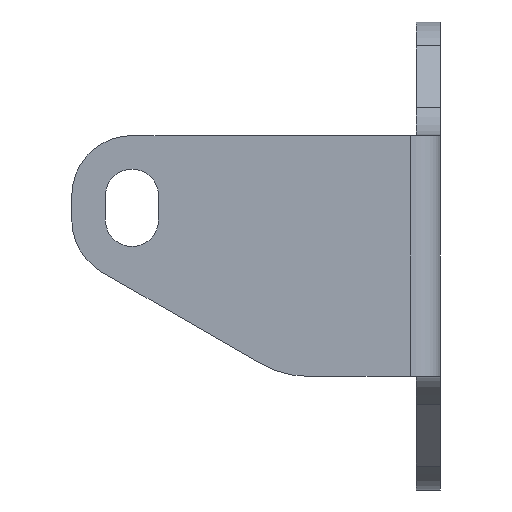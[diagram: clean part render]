
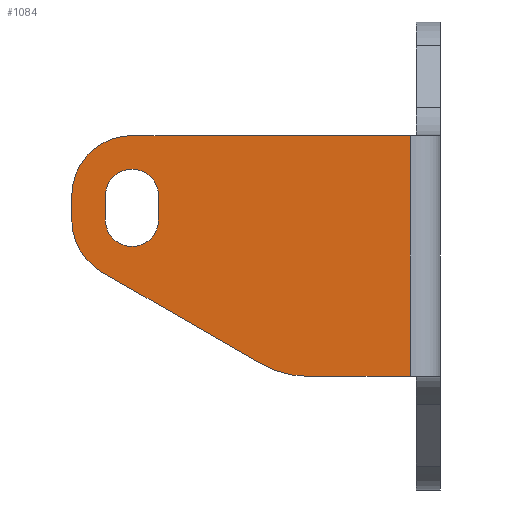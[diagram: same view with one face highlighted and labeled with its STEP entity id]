
A CAD part, front view. The second image highlights one B-rep face of the part: STEP entity #1084.
In plain terms, the highlighted planar face has unit normal (0, -1, 0).
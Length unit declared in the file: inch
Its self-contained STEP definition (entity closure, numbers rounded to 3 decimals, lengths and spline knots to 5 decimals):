
#25 = VECTOR ( 'NONE', #606, 39.37008 ) ;
#48 = EDGE_CURVE ( 'NONE', #1152, #475, #504, .T. ) ;
#69 = LINE ( 'NONE', #352, #1058 ) ;
#87 = EDGE_CURVE ( 'NONE', #1293, #253, #721, .T. ) ;
#99 = CARTESIAN_POINT ( 'NONE',  ( -1.7378, -1.875, -0.602 ) ) ;
#100 = ORIENTED_EDGE ( 'NONE', *, *, #48, .F. ) ;
#108 = AXIS2_PLACEMENT_3D ( 'NONE', #1216, #1102, #794 ) ;
#146 = DIRECTION ( 'NONE',  ( -1., 0., 0. ) ) ;
#149 = DIRECTION ( 'NONE',  ( 0., 1., 0. ) ) ;
#151 = VERTEX_POINT ( 'NONE', #1221 ) ;
#158 = CARTESIAN_POINT ( 'NONE',  ( -1.6, -1.875, -0.477 ) ) ;
#161 = CARTESIAN_POINT ( 'NONE',  ( -1.4622, -1.875, -0.602 ) ) ;
#168 = CARTESIAN_POINT ( 'NONE',  ( -0.68373, -1.875, -0.9145 ) ) ;
#171 = VECTOR ( 'NONE', #442, 39.37008 ) ;
#173 = AXIS2_PLACEMENT_3D ( 'NONE', #1049, #661, #1270 ) ;
#180 = CARTESIAN_POINT ( 'NONE',  ( -0.155, -1.875, -1.4145 ) ) ;
#182 = ORIENTED_EDGE ( 'NONE', *, *, #910, .F. ) ;
#185 = DIRECTION ( 'NONE',  ( 0., 0., -1. ) ) ;
#243 = EDGE_CURVE ( 'NONE', #495, #1152, #930, .T. ) ;
#248 = EDGE_CURVE ( 'NONE', #253, #407, #449, .T. ) ;
#253 = VERTEX_POINT ( 'NONE', #871 ) ;
#254 = VECTOR ( 'NONE', #889, 39.37008 ) ;
#278 = AXIS2_PLACEMENT_3D ( 'NONE', #523, #341, #1135 ) ;
#291 = ORIENTED_EDGE ( 'NONE', *, *, #243, .F. ) ;
#307 = VERTEX_POINT ( 'NONE', #664 ) ;
#341 = DIRECTION ( 'NONE',  ( 0., 1., 0. ) ) ;
#350 = LINE ( 'NONE', #748, #741 ) ;
#352 = CARTESIAN_POINT ( 'NONE',  ( -1.7378, -1.875, -0.602 ) ) ;
#364 = CARTESIAN_POINT ( 'NONE',  ( -0.93373, -1.875, -1.34751 ) ) ;
#372 = DIRECTION ( 'NONE',  ( 0., 0., 1. ) ) ;
#376 = EDGE_CURVE ( 'NONE', #459, #1293, #69, .T. ) ;
#407 = VERTEX_POINT ( 'NONE', #1259 ) ;
#413 = CARTESIAN_POINT ( 'NONE',  ( -1.7378, -1.875, -0.477 ) ) ;
#424 = CIRCLE ( 'NONE', #803, 0.1378 ) ;
#442 = DIRECTION ( 'NONE',  ( 0., 0., -1. ) ) ;
#448 = ORIENTED_EDGE ( 'NONE', *, *, #1166, .T. ) ;
#449 = CIRCLE ( 'NONE', #1189, 0.1378 ) ;
#459 = VERTEX_POINT ( 'NONE', #99 ) ;
#475 = VERTEX_POINT ( 'NONE', #798 ) ;
#491 = CARTESIAN_POINT ( 'NONE',  ( -1.9125, -1.875, -0.477 ) ) ;
#495 = VERTEX_POINT ( 'NONE', #598 ) ;
#504 = LINE ( 'NONE', #1302, #25 ) ;
#523 = CARTESIAN_POINT ( 'NONE',  ( -1.6, -1.875, -0.477 ) ) ;
#531 = AXIS2_PLACEMENT_3D ( 'NONE', #168, #1181, #847 ) ;
#535 = ORIENTED_EDGE ( 'NONE', *, *, #860, .F. ) ;
#543 = CARTESIAN_POINT ( 'NONE',  ( -1.6, -1.875, -0.1645 ) ) ;
#548 = EDGE_LOOP ( 'NONE', ( #1095, #1294, #574, #448, #1047 ) ) ;
#552 = VECTOR ( 'NONE', #809, 39.37008 ) ;
#557 = LINE ( 'NONE', #161, #171 ) ;
#559 = DIRECTION ( 'NONE',  ( 0., 0., -1. ) ) ;
#568 = VERTEX_POINT ( 'NONE', #826 ) ;
#569 = CARTESIAN_POINT ( 'NONE',  ( -0.155, -1.875, -1.4145 ) ) ;
#574 = ORIENTED_EDGE ( 'NONE', *, *, #248, .T. ) ;
#590 = DIRECTION ( 'NONE',  ( 0., 1., 0. ) ) ;
#598 = CARTESIAN_POINT ( 'NONE',  ( -0.68373, -1.875, -1.4145 ) ) ;
#606 = DIRECTION ( 'NONE',  ( -0.866, 0., 0.5 ) ) ;
#661 = DIRECTION ( 'NONE',  ( 0., -1., 0. ) ) ;
#664 = CARTESIAN_POINT ( 'NONE',  ( -1.9125, -1.875, -0.477 ) ) ;
#687 = CARTESIAN_POINT ( 'NONE',  ( -1.6, -1.875, -0.602 ) ) ;
#689 = ORIENTED_EDGE ( 'NONE', *, *, #1304, .F. ) ;
#694 = ORIENTED_EDGE ( 'NONE', *, *, #1151, .F. ) ;
#695 = DIRECTION ( 'NONE',  ( 0., 0., -1. ) ) ;
#704 = EDGE_LOOP ( 'NONE', ( #1183, #535, #182, #689, #100, #291, #694, #712 ) ) ;
#712 = ORIENTED_EDGE ( 'NONE', *, *, #1299, .F. ) ;
#721 = CIRCLE ( 'NONE', #278, 0.1378 ) ;
#741 = VECTOR ( 'NONE', #146, 39.37008 ) ;
#748 = CARTESIAN_POINT ( 'NONE',  ( -0.68373, -1.875, -1.4145 ) ) ;
#753 = FACE_BOUND ( 'NONE', #548, .T. ) ;
#794 = DIRECTION ( 'NONE',  ( 0., 0., 1. ) ) ;
#798 = CARTESIAN_POINT ( 'NONE',  ( -1.75625, -1.875, -0.87263 ) ) ;
#803 = AXIS2_PLACEMENT_3D ( 'NONE', #687, #1295, #1198 ) ;
#809 = DIRECTION ( 'NONE',  ( 1., 0., 0. ) ) ;
#814 = EDGE_CURVE ( 'NONE', #1052, #459, #424, .T. ) ;
#826 = CARTESIAN_POINT ( 'NONE',  ( -1.9125, -1.875, -0.602 ) ) ;
#844 = VECTOR ( 'NONE', #695, 39.37008 ) ;
#847 = DIRECTION ( 'NONE',  ( 0., 0., -1. ) ) ;
#860 = EDGE_CURVE ( 'NONE', #307, #1126, #1125, .T. ) ;
#871 = CARTESIAN_POINT ( 'NONE',  ( -1.6, -1.875, -0.3392 ) ) ;
#880 = CARTESIAN_POINT ( 'NONE',  ( -1.6, -1.875, -0.477 ) ) ;
#889 = DIRECTION ( 'NONE',  ( 0., 0., 1. ) ) ;
#910 = EDGE_CURVE ( 'NONE', #568, #307, #1001, .T. ) ;
#919 = VERTEX_POINT ( 'NONE', #180 ) ;
#927 = AXIS2_PLACEMENT_3D ( 'NONE', #880, #590, #185 ) ;
#930 = CIRCLE ( 'NONE', #531, 0.5 ) ;
#978 = LINE ( 'NONE', #1111, #552 ) ;
#1001 = LINE ( 'NONE', #491, #254 ) ;
#1047 = ORIENTED_EDGE ( 'NONE', *, *, #814, .T. ) ;
#1049 = CARTESIAN_POINT ( 'NONE',  ( -0.68373, -1.875, -0.9145 ) ) ;
#1052 = VERTEX_POINT ( 'NONE', #1224 ) ;
#1058 = VECTOR ( 'NONE', #372, 39.37008 ) ;
#1081 = CIRCLE ( 'NONE', #108, 0.3125 ) ;
#1084 = ADVANCED_FACE ( 'NONE', ( #1252, #753 ), #1146, .T. ) ;
#1095 = ORIENTED_EDGE ( 'NONE', *, *, #376, .T. ) ;
#1102 = DIRECTION ( 'NONE',  ( 0., 1., 0. ) ) ;
#1111 = CARTESIAN_POINT ( 'NONE',  ( -1.6, -1.875, -0.1645 ) ) ;
#1125 = CIRCLE ( 'NONE', #927, 0.3125 ) ;
#1126 = VERTEX_POINT ( 'NONE', #543 ) ;
#1135 = DIRECTION ( 'NONE',  ( 0., 0., -1. ) ) ;
#1146 = PLANE ( 'NONE',  #173 ) ;
#1151 = EDGE_CURVE ( 'NONE', #919, #495, #350, .T. ) ;
#1152 = VERTEX_POINT ( 'NONE', #364 ) ;
#1166 = EDGE_CURVE ( 'NONE', #407, #1052, #557, .T. ) ;
#1178 = LINE ( 'NONE', #569, #844 ) ;
#1181 = DIRECTION ( 'NONE',  ( 0., 1., 0. ) ) ;
#1183 = ORIENTED_EDGE ( 'NONE', *, *, #1233, .F. ) ;
#1189 = AXIS2_PLACEMENT_3D ( 'NONE', #158, #149, #559 ) ;
#1198 = DIRECTION ( 'NONE',  ( 0., 0., -1. ) ) ;
#1216 = CARTESIAN_POINT ( 'NONE',  ( -1.6, -1.875, -0.602 ) ) ;
#1221 = CARTESIAN_POINT ( 'NONE',  ( -0.155, -1.875, -0.1645 ) ) ;
#1224 = CARTESIAN_POINT ( 'NONE',  ( -1.4622, -1.875, -0.602 ) ) ;
#1233 = EDGE_CURVE ( 'NONE', #1126, #151, #978, .T. ) ;
#1252 = FACE_OUTER_BOUND ( 'NONE', #704, .T. ) ;
#1259 = CARTESIAN_POINT ( 'NONE',  ( -1.4622, -1.875, -0.477 ) ) ;
#1270 = DIRECTION ( 'NONE',  ( 0., 0., -1. ) ) ;
#1293 = VERTEX_POINT ( 'NONE', #413 ) ;
#1294 = ORIENTED_EDGE ( 'NONE', *, *, #87, .T. ) ;
#1295 = DIRECTION ( 'NONE',  ( 0., 1., 0. ) ) ;
#1299 = EDGE_CURVE ( 'NONE', #151, #919, #1178, .T. ) ;
#1302 = CARTESIAN_POINT ( 'NONE',  ( -0.93373, -1.875, -1.34751 ) ) ;
#1304 = EDGE_CURVE ( 'NONE', #475, #568, #1081, .T. ) ;
